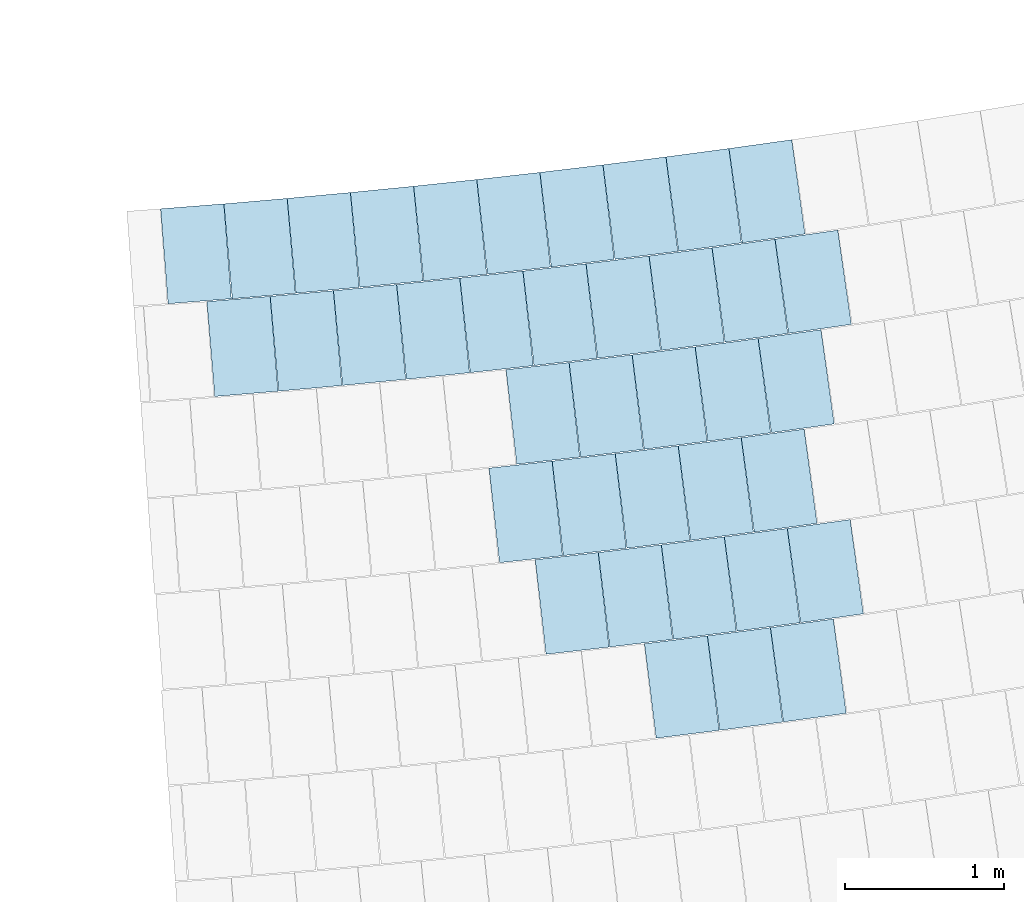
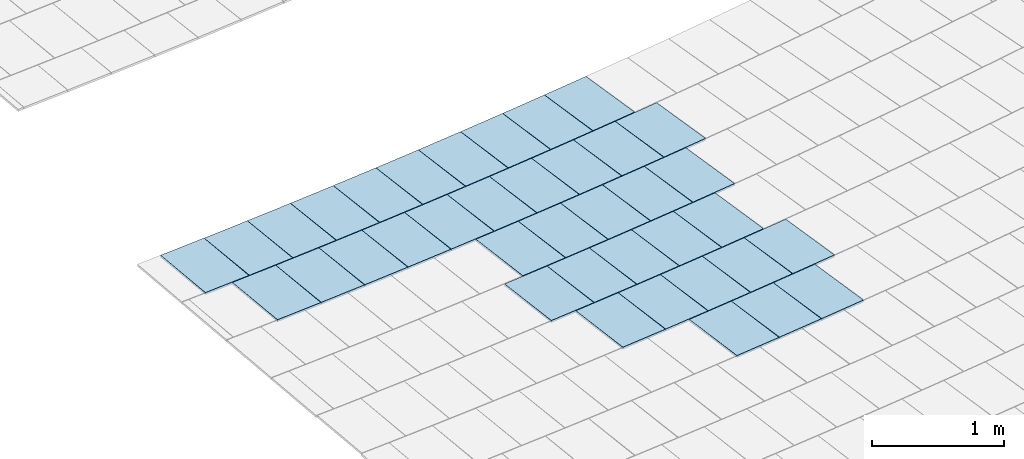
# One storey, part 54 of 438: 38 slabs.
"""IFC2X3 building model written with IfcOpenShell, lengths in millimetres."""

from ifc_helpers import new_model, entity, si_unit, converted_unit, derived_unit, direction, frame, frame_2d, origin, place, context, subcontext, project, spatial, polyline, rectangle, outline, extrude, material, layer, layer_set, layer_usage, type_object, element, save


model = new_model("IFC2X3")

# Units and contexts
model_context = context("Model", 3, precision=0.01, world=origin(), true_north=direction((6.123031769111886e-17, 1.0)))
body_context = subcontext(model_context, "Body", "Model", "MODEL_VIEW")
ifc_project = project(units=[si_unit("LENGTHUNIT", "METRE", prefix="MILLI"), si_unit("AREAUNIT", "SQUARE_METRE"), si_unit("VOLUMEUNIT", "CUBIC_METRE"), converted_unit("PLANEANGLEUNIT", "DEGREE", entity("IfcRatioMeasure", 0.017453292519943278), si_unit("PLANEANGLEUNIT", "RADIAN"), dimensions=[0, 0, 0, 0, 0, 0, 0]), si_unit("MASSUNIT", "GRAM", prefix="KILO"), derived_unit("MASSDENSITYUNIT", [(si_unit("MASSUNIT", "GRAM", prefix="KILO"), 1), (si_unit("LENGTHUNIT", "METRE"), -3)]), derived_unit("MOMENTOFINERTIAUNIT", [(si_unit("LENGTHUNIT", "METRE"), 4)]), si_unit("TIMEUNIT", "SECOND"), si_unit("FREQUENCYUNIT", "HERTZ"), si_unit("THERMODYNAMICTEMPERATUREUNIT", "DEGREE_CELSIUS"), derived_unit("THERMALTRANSMITTANCEUNIT", [(si_unit("MASSUNIT", "GRAM", prefix="KILO"), 1), (si_unit("THERMODYNAMICTEMPERATUREUNIT", "KELVIN"), -1), (si_unit("TIMEUNIT", "SECOND"), -3)]), derived_unit("THERMALCONDUCTANCEUNIT", [(si_unit("MASSUNIT", "GRAM", prefix="KILO"), 1), (si_unit("LENGTHUNIT", "METRE"), 1), (si_unit("THERMODYNAMICTEMPERATUREUNIT", "KELVIN"), -1), (si_unit("TIMEUNIT", "SECOND"), -3)]), derived_unit("VOLUMETRICFLOWRATEUNIT", [(si_unit("LENGTHUNIT", "METRE"), 3), (si_unit("TIMEUNIT", "SECOND"), -1)]), derived_unit("MASSFLOWRATEUNIT", [(si_unit("MASSUNIT", "GRAM", prefix="KILO"), 1), (si_unit("TIMEUNIT", "SECOND"), -1)]), derived_unit("ROTATIONALFREQUENCYUNIT", [(si_unit("TIMEUNIT", "SECOND"), -1)]), si_unit("ELECTRICCURRENTUNIT", "AMPERE"), si_unit("ELECTRICVOLTAGEUNIT", "VOLT"), si_unit("POWERUNIT", "WATT"), converted_unit("FORCEUNIT", "KIP", entity("IfcRatioMeasure", 2.088543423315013e-05), si_unit("FORCEUNIT", "NEWTON"), dimensions=[1, 1, -2, 0, 0, 0, 0]), si_unit("ILLUMINANCEUNIT", "LUX"), si_unit("LUMINOUSFLUXUNIT", "LUMEN"), si_unit("LUMINOUSINTENSITYUNIT", "CANDELA"), derived_unit("USERDEFINED", [(si_unit("MASSUNIT", "GRAM", prefix="KILO"), -1), (si_unit("LENGTHUNIT", "METRE"), -2), (si_unit("TIMEUNIT", "SECOND"), 3), (si_unit("LUMINOUSFLUXUNIT", "LUMEN"), 1)]), derived_unit("USERDEFINED", [(si_unit("MASSUNIT", "GRAM", prefix="KILO"), 1), (si_unit("LENGTHUNIT", "METRE"), 3), (si_unit("TIMEUNIT", "SECOND"), -3), (si_unit("ELECTRICCURRENTUNIT", "AMPERE"), -2)]), derived_unit("USERDEFINED", [(si_unit("LENGTHUNIT", "METRE"), 2), (si_unit("TIMEUNIT", "SECOND"), -2)]), derived_unit("SOUNDPOWERUNIT", [(si_unit("MASSUNIT", "GRAM", prefix="KILO"), 1), (si_unit("LENGTHUNIT", "METRE"), 2), (si_unit("TIMEUNIT", "SECOND"), -3)]), derived_unit("SOUNDPRESSUREUNIT", [(si_unit("MASSUNIT", "GRAM", prefix="KILO"), 1), (si_unit("LENGTHUNIT", "METRE"), -1), (si_unit("TIMEUNIT", "SECOND"), -2)]), derived_unit("LINEARVELOCITYUNIT", [(si_unit("LENGTHUNIT", "METRE"), 1), (si_unit("TIMEUNIT", "SECOND"), -1)]), si_unit("PRESSUREUNIT", "PASCAL"), derived_unit("USERDEFINED", [(si_unit("LENGTHUNIT", "METRE"), -2), (si_unit("MASSUNIT", "GRAM", prefix="KILO"), 1), (si_unit("TIMEUNIT", "SECOND"), -2)]), derived_unit("LINEARFORCEUNIT", [(si_unit("MASSUNIT", "GRAM", prefix="KILO"), 1), (si_unit("LENGTHUNIT", "METRE"), 1), (si_unit("TIMEUNIT", "SECOND"), -2), (si_unit("LENGTHUNIT", "METRE"), -1)]), derived_unit("PLANARFORCEUNIT", [(si_unit("MASSUNIT", "GRAM", prefix="KILO"), 1), (si_unit("LENGTHUNIT", "METRE"), 1), (si_unit("TIMEUNIT", "SECOND"), -2), (si_unit("LENGTHUNIT", "METRE"), -2)]), derived_unit("SPECIFICHEATCAPACITYUNIT", [(si_unit("LENGTHUNIT", "METRE"), 2), (si_unit("TIMEUNIT", "SECOND"), -2), (si_unit("THERMODYNAMICTEMPERATUREUNIT", "KELVIN"), -1)]), derived_unit("VAPORPERMEABILITYUNIT", [(si_unit("TIMEUNIT", "SECOND"), 1), (si_unit("LENGTHUNIT", "METRE"), -1)]), derived_unit("DYNAMICVISCOSITYUNIT", [(si_unit("MASSUNIT", "GRAM", prefix="KILO"), 1), (si_unit("LENGTHUNIT", "METRE"), -1), (si_unit("TIMEUNIT", "SECOND"), -1)]), derived_unit("THERMALEXPANSIONCOEFFICIENTUNIT", [(si_unit("THERMODYNAMICTEMPERATUREUNIT", "KELVIN"), -1)])], contexts=[model_context])

# Site, building, storey
site_placement = place(None, frame((0.0, 0.0, 0.0), z_axis=(0.0, 0.0, 1.0), x_axis=(0.8191520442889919, 0.5735764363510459, 0.0)))
site = spatial("IfcSite", under=ifc_project, at=site_placement, Name="Default", CompositionType="ELEMENT")
building_placement = place(site_placement, origin())
building = spatial("IfcBuilding", under=site, at=building_placement, CompositionType="ELEMENT")
storey_placement = place(building_placement, origin())
storey = spatial("IfcBuildingStorey", under=building, at=storey_placement, Name="PLAN", CompositionType="ELEMENT", Elevation=0.0)

# Slabs
ifc_material = material(Name="Paint-01")
ifc_layer = layer(ifc_material, 20.00000000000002)
ifc_layer_set = layer_set([ifc_layer], Name="Floor:Slab-179:1000")
ifc_layer_usage = layer_usage(ifc_layer_set, "AXIS3", "POSITIVE", 0.0)
slab_type = type_object("IfcSlabType", Name="Floor:Slab-179:1000", PredefinedType="FLOOR", material=ifc_layer_set)
slab_1_placement = place(storey_placement, origin())
element("IfcSlab", 1, at=slab_1_placement, inside=storey, type_object=slab_type, material=ifc_layer_usage, Name="Floor:Slab-179:1000", ObjectType="Floor:Slab-179:1000", PredefinedType="FLOOR", context=body_context, shape_type="SweptSolid", body=[
    extrude(outline(polyline([(-300.0000010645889, -200.00000294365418), (299.99999893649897, -200.00000294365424), (300.0000010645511, 200.00000294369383), (-299.99999893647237, 200.0000029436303), (-300.0000010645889, -200.00000294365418)])), frame((-69913.46138897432, -123825.9002624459, 20.0), z_axis=(0.0, 0.0, -1.0), x_axis=(-0.467995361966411, -0.8837309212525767, 0.0)), (0.0, 0.0, 1.0), 20.00000000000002),
])
slab_2_placement = place(storey_placement, origin())
element("IfcSlab", 2, at=slab_2_placement, inside=storey, type_object=slab_type, material=ifc_layer_usage, Name="Floor:Slab-179:1000", ObjectType="Floor:Slab-179:1000", PredefinedType="FLOOR", context=body_context, shape_type="SweptSolid", body=[
    extrude(outline(polyline([(-300.0000010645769, -200.00000294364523), (299.9999989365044, -200.00000294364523), (300.0000010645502, 200.00000294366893), (-299.99999893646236, 200.0000029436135), (-300.0000010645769, -200.00000294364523)])), frame((-69557.68966223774, -124012.86013091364, 20.0), z_axis=(0.0, 0.0, -1.0), x_axis=(-0.46236873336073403, -0.8866877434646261, 0.0)), (0.0, 0.0, 1.0), 20.000000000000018),
])
slab_3_placement = place(storey_placement, origin())
element("IfcSlab", 3, at=slab_3_placement, inside=storey, type_object=slab_type, material=ifc_layer_usage, Name="Floor:Slab-179:1000", ObjectType="Floor:Slab-179:1000", PredefinedType="FLOOR", context=body_context, shape_type="SweptSolid", body=[
    extrude(outline(polyline([(-300.0000010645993, -200.00000294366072), (299.99999893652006, -200.00000294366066), (300.0000010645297, 200.00000294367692), (-299.99999893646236, 200.00000294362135), (-300.0000010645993, -200.00000294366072)])), frame((-69200.73676719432, -124197.55486468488, 20.0), z_axis=(0.0, 0.0, -1.0), x_axis=(-0.4567234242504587, -0.889608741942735, 0.0)), (0.0, 0.0, 1.0), 20.000000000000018),
])
slab_4_placement = place(storey_placement, origin())
element("IfcSlab", 4, at=slab_4_placement, inside=storey, type_object=slab_type, material=ifc_layer_usage, Name="Floor:Slab-179:1000", ObjectType="Floor:Slab-179:1000", PredefinedType="FLOOR", context=body_context, shape_type="SweptSolid", body=[
    extrude(outline(polyline([(-300.0000010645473, -200.00000294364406), (299.9999989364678, -200.00000294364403), (300.0000010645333, 200.00000294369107), (-299.999998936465, 200.00000294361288), (-300.0000010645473, -200.00000294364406)])), frame((-70177.0330586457, -122998.24780370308, 20.0), z_axis=(0.0, 0.0, -1.0), x_axis=(-0.4767252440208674, -0.8790523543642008, 0.0)), (0.0, 0.0, 1.0), 20.00000000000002),
])
slab_5_placement = place(storey_placement, origin())
element("IfcSlab", 5, at=slab_5_placement, inside=storey, type_object=slab_type, material=ifc_layer_usage, Name="Floor:Slab-179:1000", ObjectType="Floor:Slab-179:1000", PredefinedType="FLOOR", context=body_context, shape_type="SweptSolid", body=[
    extrude(outline(polyline([(-300.0000010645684, -200.00000294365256), (299.9999989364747, -200.0000029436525), (300.00000106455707, 200.00000294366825), (-299.9999989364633, 200.00000294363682), (-300.0000010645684, -200.00000294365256)])), frame((-69467.96853680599, -123376.9169138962, 20.0), z_axis=(0.0, 0.0, -1.0), x_axis=(-0.46540285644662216, -0.8850989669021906, 0.0)), (0.0, 0.0, 1.0), 20.00000000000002),
])
slab_6_placement = place(storey_placement, origin())
element("IfcSlab", 6, at=slab_6_placement, inside=storey, type_object=slab_type, material=ifc_layer_usage, Name="Floor:Slab-179:1000", ObjectType="Floor:Slab-179:1000", PredefinedType="FLOOR", context=body_context, shape_type="SweptSolid", body=[
    extrude(outline(polyline([(-300.00000106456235, -200.00000294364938), (299.9999989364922, -200.00000294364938), (300.0000010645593, 200.00000294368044), (-299.9999989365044, 200.00000294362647), (-300.00000106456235, -200.00000294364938)])), frame((-69823.10836951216, -123188.72004757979, 20.0), z_axis=(0.0, 0.0, -1.0), x_axis=(-0.4710737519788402, -0.8820938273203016, 0.0)), (0.0, 0.0, 1.0), 20.00000000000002),
])
slab_7_placement = place(storey_placement, origin())
element("IfcSlab", 7, at=slab_7_placement, inside=storey, type_object=slab_type, material=ifc_layer_usage, Name="Floor:Slab-179:1000", ObjectType="Floor:Slab-179:1000", PredefinedType="FLOOR", context=body_context, shape_type="SweptSolid", body=[
    extrude(outline(polyline([(-300.0000010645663, -200.0000029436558), (299.9999989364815, -200.00000294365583), (300.00000106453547, 200.00000294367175), (-299.9999989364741, 200.0000029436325), (-300.0000010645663, -200.0000029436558)])), frame((-69111.62818870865, -123562.83065083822, 20.0), z_axis=(0.0, 0.0, -1.0), x_axis=(-0.4597127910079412, -0.8880676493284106, 0.0)), (0.0, 0.0, 1.0), 20.00000000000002),
])
slab_8_placement = place(storey_placement, origin())
element("IfcSlab", 8, at=slab_8_placement, inside=storey, type_object=slab_type, material=ifc_layer_usage, Name="Floor:Slab-179:1000", ObjectType="Floor:Slab-179:1000", PredefinedType="FLOOR", context=body_context, shape_type="SweptSolid", body=[
    extrude(outline(polyline([(-300.0000010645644, -200.00000294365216), (299.9999989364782, -200.00000294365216), (300.0000010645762, 200.00000294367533), (-299.99999893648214, 200.00000294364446), (-300.0000010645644, -200.00000294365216)])), frame((-68754.10200285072, -123746.45360063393, 20.0), z_axis=(0.0, 0.0, -1.0), x_axis=(-0.45400379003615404, -0.890999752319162, 0.0)), (0.0, 0.0, 1.0), 20.000000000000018),
])
slab_9_placement = place(storey_placement, origin())
element("IfcSlab", 9, at=slab_9_placement, inside=storey, type_object=slab_type, material=ifc_layer_usage, Name="Floor:Slab-179:1000", ObjectType="Floor:Slab-179:1000", PredefinedType="FLOOR", context=body_context, shape_type="SweptSolid", body=[
    extrude(outline(polyline([(-300.0000010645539, -200.0000029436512), (299.99999893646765, -200.0000029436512), (300.0000010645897, 200.0000029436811), (-299.9999989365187, 200.0000029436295), (-300.0000010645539, -200.0000029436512)])), frame((-69732.40773403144, -122550.84548754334, 20.0), z_axis=(0.0, 0.0, -1.0), x_axis=(-0.4742065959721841, -0.880413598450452, 0.0)), (0.0, 0.0, 1.0), 20.00000000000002),
])
slab_10_placement = place(storey_placement, origin())
element("IfcSlab", 10, at=slab_10_placement, inside=storey, type_object=slab_type, material=ifc_layer_usage, Name="Floor:Slab-179:1000", ObjectType="Floor:Slab-179:1000", PredefinedType="FLOOR", context=body_context, shape_type="SweptSolid", body=[
    extrude(outline(polyline([(-300.00000106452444, -200.0000029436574), (299.9999989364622, -200.00000294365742), (300.00000106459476, 200.00000294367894), (-299.99999893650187, 200.00000294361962), (-300.00000106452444, -200.0000029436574)])), frame((-69377.91661193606, -122740.30140427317, 20.0), z_axis=(0.0, 0.0, -1.0), x_axis=(-0.4684908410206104, -0.883468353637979, 0.0)), (0.0, 0.0, 1.0), 20.00000000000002),
])
slab_11_placement = place(storey_placement, origin())
element("IfcSlab", 11, at=slab_11_placement, inside=storey, type_object=slab_type, material=ifc_layer_usage, Name="Floor:Slab-179:1000", ObjectType="Floor:Slab-179:1000", PredefinedType="FLOOR", context=body_context, shape_type="SweptSolid", body=[
    extrude(outline(polyline([(-300.0000010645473, -200.0000029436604), (299.999998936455, -200.00000294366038), (300.00000106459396, 200.00000294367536), (-299.99999893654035, 200.00000294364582), (-300.0000010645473, -200.0000029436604)])), frame((-68665.28815644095, -123112.30126837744, 20.0), z_axis=(0.0, 0.0, -1.0), x_axis=(-0.4570005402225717, -0.8894664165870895, 0.0)), (0.0, 0.0, 1.0), 20.000000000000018),
])
slab_12_placement = place(storey_placement, origin())
element("IfcSlab", 12, at=slab_12_placement, inside=storey, type_object=slab_type, material=ifc_layer_usage, Name="Floor:Slab-179:1000", ObjectType="Floor:Slab-179:1000", PredefinedType="FLOOR", context=body_context, shape_type="SweptSolid", body=[
    extrude(outline(polyline([(-300.0000010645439, -200.00000294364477), (299.9999989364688, -200.0000029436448), (300.000001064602, 200.00000294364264), (-299.9999989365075, 200.00000294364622), (-300.0000010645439, -200.00000294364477)])), frame((-70085.66358311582, -122359.0961586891, 20.0), z_axis=(0.0, 0.0, -1.0), x_axis=(-0.4799024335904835, -0.8773218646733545, 0.0)), (0.0, 0.0, 1.0), 20.000000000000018),
])
slab_13_placement = place(storey_placement, origin())
element("IfcSlab", 13, at=slab_13_placement, inside=storey, type_object=slab_type, material=ifc_layer_usage, Name="Floor:Slab-179:1000", ObjectType="Floor:Slab-179:1000", PredefinedType="FLOOR", context=body_context, shape_type="SweptSolid", body=[
    extrude(outline(polyline([(-300.0000010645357, -200.00000294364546), (299.99999893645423, -200.0000029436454), (300.00000106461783, 200.0000029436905), (-299.999998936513, 200.0000029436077), (-300.0000010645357, -200.00000294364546)])), frame((-69022.20510594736, -122927.45595146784, 20.0), z_axis=(0.0, 0.0, -1.0), x_axis=(-0.46275540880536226, -0.8864860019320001, 0.0)), (0.0, 0.0, 1.0), 20.00000000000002),
])
slab_14_placement = place(storey_placement, origin())
element("IfcSlab", 14, at=slab_14_placement, inside=storey, type_object=slab_type, material=ifc_layer_usage, Name="Floor:Slab-179:1000", ObjectType="Floor:Slab-179:1000", PredefinedType="FLOOR", context=body_context, shape_type="SweptSolid", body=[
    extrude(outline(polyline([(-300.00000106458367, -200.00000294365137), (299.99999893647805, -200.0000029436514), (300.0000010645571, 200.00000294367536), (-299.9999989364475, 200.00000294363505), (-300.00000106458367, -200.00000294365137)])), frame((-69287.52163045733, -122102.99479858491, 20.0), z_axis=(0.0, 0.0, -1.0), x_axis=(-0.4716340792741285, -0.8817943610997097, 0.0)), (0.0, 0.0, 1.0), 20.00000000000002),
])
slab_15_placement = place(storey_placement, origin())
element("IfcSlab", 15, at=slab_15_placement, inside=storey, type_object=slab_type, material=ifc_layer_usage, Name="Floor:Slab-179:1000", ObjectType="Floor:Slab-179:1000", PredefinedType="FLOOR", context=body_context, shape_type="SweptSolid", body=[
    extrude(outline(polyline([(-300.0000010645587, -200.0000029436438), (299.9999989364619, -200.00000294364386), (300.00000106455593, 200.00000294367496), (-299.99999893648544, 200.00000294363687), (-300.0000010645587, -200.0000029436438)])), frame((-69641.34660099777, -121912.25720622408, 20.0), z_axis=(0.0, 0.0, -1.0), x_axis=(-0.47739529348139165, -0.8786886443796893, 0.0)), (0.0, 0.0, 1.0), 20.000000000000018),
])
slab_16_placement = place(storey_placement, origin())
element("IfcSlab", 16, at=slab_16_placement, inside=storey, type_object=slab_type, material=ifc_layer_usage, Name="Floor:Slab-179:1000", ObjectType="Floor:Slab-179:1000", PredefinedType="FLOOR", context=body_context, shape_type="SweptSolid", body=[
    extrude(outline(polyline([(-300.00000106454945, -200.00000294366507), (299.9999989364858, -200.00000294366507), (300.0000010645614, 200.00000294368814), (-299.999998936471, 200.00000294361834), (-300.00000106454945, -200.00000294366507)])), frame((-68576.1645202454, -122477.50233670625, 20.0), z_axis=(0.0, 0.0, -1.0), x_axis=(-0.4600512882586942, -0.8878923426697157, 0.0)), (0.0, 0.0, 1.0), 20.00000000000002),
])
slab_17_placement = place(storey_placement, origin())
element("IfcSlab", 17, at=slab_17_placement, inside=storey, type_object=slab_type, material=ifc_layer_usage, Name="Floor:Slab-179:1000", ObjectType="Floor:Slab-179:1000", PredefinedType="FLOOR", context=body_context, shape_type="SweptSolid", body=[
    extrude(outline(polyline([(-300.00000106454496, -200.00000294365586), (299.99999893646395, -200.00000294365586), (300.00000106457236, 200.00000294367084), (-299.9999989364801, 200.00000294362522), (-300.00000106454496, -200.00000294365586)])), frame((-68932.4558668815, -122291.41253249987, 20.0), z_axis=(0.0, 0.0, -1.0), x_axis=(-0.46585266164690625, -0.8848623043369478, 0.0)), (0.0, 0.0, 1.0), 20.000000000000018),
])
slab_18_placement = place(storey_placement, origin())
element("IfcSlab", 18, at=slab_18_placement, inside=storey, type_object=slab_type, material=ifc_layer_usage, Name="Floor:Slab-179:1000", ObjectType="Floor:Slab-179:1000", PredefinedType="FLOOR", context=body_context, shape_type="SweptSolid", body=[
    extrude(outline(polyline([(-300.0000010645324, -200.00000294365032), (299.99999893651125, -200.00000294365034), (300.0000010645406, 200.0000029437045), (-299.9999989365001, 200.00000294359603), (-300.0000010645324, -200.00000294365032)])), frame((-68218.66285302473, -122661.25623966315, 20.0), z_axis=(0.0, 0.0, -1.0), x_axis=(-0.45423020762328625, -0.8908843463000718, 0.0)), (0.0, 0.0, 1.0), 20.000000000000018),
])
slab_19_placement = place(storey_placement, origin())
element("IfcSlab", 19, at=slab_19_placement, inside=storey, type_object=slab_type, material=ifc_layer_usage, Name="Floor:Slab-179:1000", ObjectType="Floor:Slab-179:1000", PredefinedType="FLOOR", context=body_context, shape_type="SweptSolid", body=[
    extrude(outline(polyline([(-300.0000010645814, -200.00000294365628), (299.9999989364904, -200.0000029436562), (300.0000010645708, 200.00000294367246), (-299.9999989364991, 200.00000294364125), (-300.0000010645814, -200.00000294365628)])), frame((-70949.54895257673, -120481.54854260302, 20.0), z_axis=(0.0, 0.0, -1.0), x_axis=(-0.503657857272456, -0.8639032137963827, 0.0)), (0.0, 0.0, 1.0), 20.000000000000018),
])
slab_20_placement = place(storey_placement, origin())
element("IfcSlab", 20, at=slab_20_placement, inside=storey, type_object=slab_type, material=ifc_layer_usage, Name="Floor:Slab-179:1000", ObjectType="Floor:Slab-179:1000", PredefinedType="FLOOR", context=body_context, shape_type="SweptSolid", body=[
    extrude(outline(polyline([(-300.00000106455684, -200.0000029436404), (299.99999893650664, -200.0000029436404), (300.00000106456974, 200.00000294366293), (-299.9999989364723, 200.00000294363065), (-300.00000106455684, -200.0000029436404)])), frame((-70601.60903402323, -120682.86048965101, 20.0), z_axis=(0.0, 0.0, -1.0), x_axis=(-0.4979361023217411, -0.8672137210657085, 0.0)), (0.0, 0.0, 1.0), 20.00000000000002),
])
slab_21_placement = place(storey_placement, origin())
element("IfcSlab", 21, at=slab_21_placement, inside=storey, type_object=slab_type, material=ifc_layer_usage, Name="Floor:Slab-179:1000", ObjectType="Floor:Slab-179:1000", PredefinedType="FLOOR", context=body_context, shape_type="SweptSolid", body=[
    extrude(outline(polyline([(-300.00000106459, -200.00000294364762), (299.9999989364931, -200.00000294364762), (300.0000010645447, 200.0000029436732), (-299.99999893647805, 200.0000029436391), (-300.00000106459, -200.00000294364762)])), frame((-70252.34596399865, -120881.86801429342, 20.0), z_axis=(0.0, 0.0, -1.0), x_axis=(-0.49219258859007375, -0.8704863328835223, 0.0)), (0.0, 0.0, 1.0), 20.00000000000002),
])
slab_22_placement = place(storey_placement, origin())
element("IfcSlab", 22, at=slab_22_placement, inside=storey, type_object=slab_type, material=ifc_layer_usage, Name="Floor:Slab-179:1000", ObjectType="Floor:Slab-179:1000", PredefinedType="FLOOR", context=body_context, shape_type="SweptSolid", body=[
    extrude(outline(polyline([(-300.0000010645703, -200.00000294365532), (299.99999893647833, -200.00000294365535), (300.00000106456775, 200.00000294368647), (-299.99999893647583, 200.00000294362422), (-300.0000010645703, -200.00000294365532)])), frame((-69901.77500457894, -121078.56242031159, 20.0), z_axis=(0.0, 0.0, -1.0), x_axis=(-0.4864275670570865, -0.8737209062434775, 0.0)), (0.0, 0.0, 1.0), 20.00000000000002),
])
slab_23_placement = place(storey_placement, origin())
element("IfcSlab", 23, at=slab_23_placement, inside=storey, type_object=slab_type, material=ifc_layer_usage, Name="Floor:Slab-179:1000", ObjectType="Floor:Slab-179:1000", PredefinedType="FLOOR", context=body_context, shape_type="SweptSolid", body=[
    extrude(outline(polyline([(-300.0000010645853, -200.0000029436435), (299.99999893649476, -200.00000294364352), (300.00000106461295, 200.0000029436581), (-299.9999989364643, 200.00000294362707), (-300.0000010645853, -200.0000029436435)])), frame((-69196.77075094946, -121464.97759736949, 20.0), z_axis=(0.0, 0.0, -1.0), x_axis=(-0.4748340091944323, -0.8800753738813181, 0.0)), (0.0, 0.0, 1.0), 20.00000000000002),
])
slab_24_placement = place(storey_placement, origin())
element("IfcSlab", 24, at=slab_24_placement, inside=storey, type_object=slab_type, material=ifc_layer_usage, Name="Floor:Slab-179:1000", ObjectType="Floor:Slab-179:1000", PredefinedType="FLOOR", context=body_context, shape_type="SweptSolid", body=[
    extrude(outline(polyline([(-300.0000010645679, -200.00000294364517), (299.999998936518, -200.0000029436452), (300.00000106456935, 200.00000294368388), (-299.9999989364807, 200.000002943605), (-300.0000010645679, -200.00000294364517)])), frame((-69549.91147499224, -121272.93511256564, 20.0), z_axis=(0.0, 0.0, -1.0), x_axis=(-0.4806412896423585, -0.8769172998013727, 0.0)), (0.0, 0.0, 1.0), 20.00000000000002),
])
slab_25_placement = place(storey_placement, origin())
element("IfcSlab", 25, at=slab_25_placement, inside=storey, type_object=slab_type, material=ifc_layer_usage, Name="Floor:Slab-179:1000", ObjectType="Floor:Slab-179:1000", PredefinedType="FLOOR", context=body_context, shape_type="SweptSolid", body=[
    extrude(outline(polyline([(-300.00000106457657, -200.0000029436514), (299.99999893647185, -200.0000029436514), (300.0000010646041, 200.00000294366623), (-299.9999989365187, 200.00000294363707), (-300.00000106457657, -200.0000029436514)])), frame((-68842.36826397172, -121654.68148286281, 20.0), z_axis=(0.0, 0.0, -1.0), x_axis=(-0.46900597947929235, -0.883194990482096, 0.0)), (0.0, 0.0, 1.0), 20.00000000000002),
])
slab_26_placement = place(storey_placement, origin())
element("IfcSlab", 26, at=slab_26_placement, inside=storey, type_object=slab_type, material=ifc_layer_usage, Name="Floor:Slab-179:1000", ObjectType="Floor:Slab-179:1000", PredefinedType="FLOOR", context=body_context, shape_type="SweptSolid", body=[
    extrude(outline(polyline([(-300.0000010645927, -200.00000294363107), (299.9999989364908, -200.0000029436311), (300.0000010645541, 200.00000294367), (-299.99999893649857, 200.00000294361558), (-300.0000010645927, -200.00000294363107)])), frame((-67771.74536362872, -122209.6791599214, 20.0), z_axis=(0.0, 0.0, -1.0), x_axis=(-0.4513999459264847, -0.8923217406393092, 0.0)), (0.0, 0.0, 1.0), 20.00000000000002),
])
slab_27_placement = place(storey_placement, origin())
element("IfcSlab", 27, at=slab_27_placement, inside=storey, type_object=slab_type, material=ifc_layer_usage, Name="Floor:Slab-179:1000", ObjectType="Floor:Slab-179:1000", PredefinedType="FLOOR", context=body_context, shape_type="SweptSolid", body=[
    extrude(outline(polyline([(-300.00000106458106, -200.00000294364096), (299.99999893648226, -200.00000294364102), (300.0000010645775, 200.000002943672), (-299.99999893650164, 200.00000294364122), (-300.00000106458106, -200.00000294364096)])), frame((-68129.84000230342, -122027.0403997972, 20.0), z_axis=(0.0, 0.0, -1.0), x_axis=(-0.45728869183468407, -0.8893183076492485, 0.0)), (0.0, 0.0, 1.0), 20.00000000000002),
])
slab_28_placement = place(storey_placement, origin())
element("IfcSlab", 28, at=slab_28_placement, inside=storey, type_object=slab_type, material=ifc_layer_usage, Name="Floor:Slab-179:1000", ObjectType="Floor:Slab-179:1000", PredefinedType="FLOOR", context=body_context, shape_type="SweptSolid", body=[
    extrude(outline(polyline([(-300.00000106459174, -200.00000294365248), (299.99999893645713, -200.0000029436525), (300.0000010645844, 200.0000029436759), (-299.99999893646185, 200.00000294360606), (-300.00000106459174, -200.00000294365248)])), frame((-68486.71950071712, -121842.03847937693, 20.0), z_axis=(0.0, 0.0, -1.0), x_axis=(-0.4631574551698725, -0.8862760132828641, 0.0)), (0.0, 0.0, 1.0), 20.00000000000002),
])
slab_29_placement = place(storey_placement, origin())
element("IfcSlab", 29, at=slab_29_placement, inside=storey, type_object=slab_type, material=ifc_layer_usage, Name="Floor:Slab-179:1000", ObjectType="Floor:Slab-179:1000", PredefinedType="FLOOR", context=body_context, shape_type="SweptSolid", body=[
    extrude(outline(polyline([(-300.0000010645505, -200.00000294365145), (299.9999989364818, -200.0000029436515), (300.00000106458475, 200.0000029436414), (-299.99999893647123, 200.00000294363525), (-300.0000010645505, -200.00000294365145)])), frame((-70854.6924574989, -119835.97159197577, 20.0), z_axis=(0.0, 0.0, -1.0), x_axis=(-0.507143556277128, -0.8618615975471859, 0.0)), (0.0, 0.0, 1.0), 20.00000000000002),
])
slab_30_placement = place(storey_placement, origin())
element("IfcSlab", 30, at=slab_30_placement, inside=storey, type_object=slab_type, material=ifc_layer_usage, Name="Floor:Slab-179:1000", ObjectType="Floor:Slab-179:1000", PredefinedType="FLOOR", context=body_context, shape_type="SweptSolid", body=[
    extrude(outline(polyline([(-300.00000106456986, -200.0000029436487), (299.99999893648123, -200.00000294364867), (300.0000010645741, 200.0000029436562), (-299.99999893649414, 200.0000029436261), (-300.00000106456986, -200.0000029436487)])), frame((-70159.0508656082, -120239.07776219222, 20.0), z_axis=(0.0, 0.0, -1.0), x_axis=(-0.49558900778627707, -0.8685571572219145, 0.0)), (0.0, 0.0, 1.0), 20.000000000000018),
])
slab_31_placement = place(storey_placement, origin())
element("IfcSlab", 31, at=slab_31_placement, inside=storey, type_object=slab_type, material=ifc_layer_usage, Name="Floor:Slab-179:1000", ObjectType="Floor:Slab-179:1000", PredefinedType="FLOOR", context=body_context, shape_type="SweptSolid", body=[
    extrude(outline(polyline([(-300.0000010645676, -200.00000294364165), (299.99999893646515, -200.00000294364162), (300.0000010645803, 200.00000294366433), (-299.99999893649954, 200.00000294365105), (-300.0000010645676, -200.00000294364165)])), frame((-69809.22688006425, -120437.13818891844, 20.0), z_axis=(0.0, 0.0, -1.0), x_axis=(-0.48977846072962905, -0.8718469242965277, 0.0)), (0.0, 0.0, 1.0), 20.00000000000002),
])
slab_32_placement = place(storey_placement, origin())
element("IfcSlab", 32, at=slab_32_placement, inside=storey, type_object=slab_type, material=ifc_layer_usage, Name="Floor:Slab-179:1000", ObjectType="Floor:Slab-179:1000", PredefinedType="FLOOR", context=body_context, shape_type="SweptSolid", body=[
    extrude(outline(polyline([(-300.00000106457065, -200.00000294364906), (299.9999989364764, -200.00000294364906), (300.0000010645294, 200.00000294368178), (-299.9999989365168, 200.00000294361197), (-300.00000106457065, -200.00000294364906)])), frame((-69458.08821089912, -120632.85836803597, 20.0), z_axis=(0.0, 0.0, -1.0), x_axis=(-0.48394607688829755, -0.8750978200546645, 0.0)), (0.0, 0.0, 1.0), 20.00000000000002),
])
slab_33_placement = place(storey_placement, origin())
element("IfcSlab", 33, at=slab_33_placement, inside=storey, type_object=slab_type, material=ifc_layer_usage, Name="Floor:Slab-179:1000", ObjectType="Floor:Slab-179:1000", PredefinedType="FLOOR", context=body_context, shape_type="SweptSolid", body=[
    extrude(outline(polyline([(-300.0000010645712, -200.0000029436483), (299.9999989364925, -200.0000029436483), (300.0000010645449, 200.00000294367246), (-299.999998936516, 200.00000294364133), (-300.0000010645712, -200.0000029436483)])), frame((-69105.65051363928, -120826.22957335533, 20.0), z_axis=(0.0, 0.0, -1.0), x_axis=(-0.4780921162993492, -0.8783096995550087, 0.0)), (0.0, 0.0, 1.0), 20.000000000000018),
])
slab_34_placement = place(storey_placement, origin())
element("IfcSlab", 34, at=slab_34_placement, inside=storey, type_object=slab_type, material=ifc_layer_usage, Name="Floor:Slab-179:1000", ObjectType="Floor:Slab-179:1000", PredefinedType="FLOOR", context=body_context, shape_type="SweptSolid", body=[
    extrude(outline(polyline([(-300.00000106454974, -200.0000029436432), (299.9999989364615, -200.0000029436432), (300.0000010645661, 200.00000294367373), (-299.99999893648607, 200.0000029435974), (-300.00000106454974, -200.0000029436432)])), frame((-68751.92950172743, -121017.2431834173, 20.0), z_axis=(0.0, 0.0, -1.0), x_axis=(-0.4722168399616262, -0.8814824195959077, 0.0)), (0.0, 0.0, 1.0), 20.00000000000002),
])
slab_35_placement = place(storey_placement, origin())
element("IfcSlab", 35, at=slab_35_placement, inside=storey, type_object=slab_type, material=ifc_layer_usage, Name="Floor:Slab-179:1000", ObjectType="Floor:Slab-179:1000", PredefinedType="FLOOR", context=body_context, shape_type="SweptSolid", body=[
    extrude(rectangle(XDim=599.9992403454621, YDim=399.99949945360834, at=frame_2d((-2.1884716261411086e-12, -3.765876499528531e-12), x_axis=(1.0, 0.0))), frame((-70507.2902708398, -120039.20022842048, 20.0), z_axis=(0.0, 0.0, -1.0), x_axis=(-0.49999999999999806, -0.8660254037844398, 0.0)), (0.0, 0.0, 1.0), 20.00000000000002),
])
slab_36_placement = place(storey_placement, origin())
element("IfcSlab", 36, at=slab_36_placement, inside=storey, type_object=slab_type, material=ifc_layer_usage, Name="Floor:Slab-179:1000", ObjectType="Floor:Slab-179:1000", PredefinedType="FLOOR", context=body_context, shape_type="SweptSolid", body=[
    extrude(outline(polyline([(-300.00000106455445, -200.0000029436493), (299.9999989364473, -200.0000029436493), (300.00000106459, 200.00000294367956), (-299.9999989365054, 200.00000294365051), (-300.00000106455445, -200.0000029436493)])), frame((-68396.94094582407, -121205.890681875, 20.0), z_axis=(0.0, 0.0, -1.0), x_axis=(-0.46632050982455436, -0.8846158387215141, 0.0)), (0.0, 0.0, 1.0), 20.00000000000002),
])
slab_37_placement = place(storey_placement, origin())
element("IfcSlab", 37, at=slab_37_placement, inside=storey, type_object=slab_type, material=ifc_layer_usage, Name="Floor:Slab-179:1000", ObjectType="Floor:Slab-179:1000", PredefinedType="FLOOR", context=body_context, shape_type="SweptSolid", body=[
    extrude(outline(polyline([(-300.0000010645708, -200.00000294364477), (299.9999989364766, -200.00000294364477), (300.00000106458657, 200.00000294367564), (-299.9999989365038, 200.0000029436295), (-300.0000010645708, -200.00000294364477)])), frame((-67683.22456654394, -121576.05380643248, 20.0), z_axis=(0.0, 0.0, -1.0), x_axis=(-0.4544657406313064, -0.8907642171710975, 0.0)), (0.0, 0.0, 1.0), 20.00000000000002),
])
slab_38_placement = place(storey_placement, origin())
element("IfcSlab", 38, at=slab_38_placement, inside=storey, type_object=slab_type, material=ifc_layer_usage, Name="Floor:Slab-179:1000", ObjectType="Floor:Slab-179:1000", PredefinedType="FLOOR", context=body_context, shape_type="SweptSolid", body=[
    extrude(outline(polyline([(-300.00000106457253, -200.00000294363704), (299.99999893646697, -200.000002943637), (300.0000010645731, 200.0000029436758), (-299.9999989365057, 200.00000294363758), (-300.00000106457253, -200.00000294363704)])), frame((-68040.7006731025, -121392.16365787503, 20.0), z_axis=(0.0, 0.0, -1.0), x_axis=(-0.4604033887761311, -0.8877098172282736, 0.0)), (0.0, 0.0, 1.0), 20.000000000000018),
])

save(model, "model.ifc")
